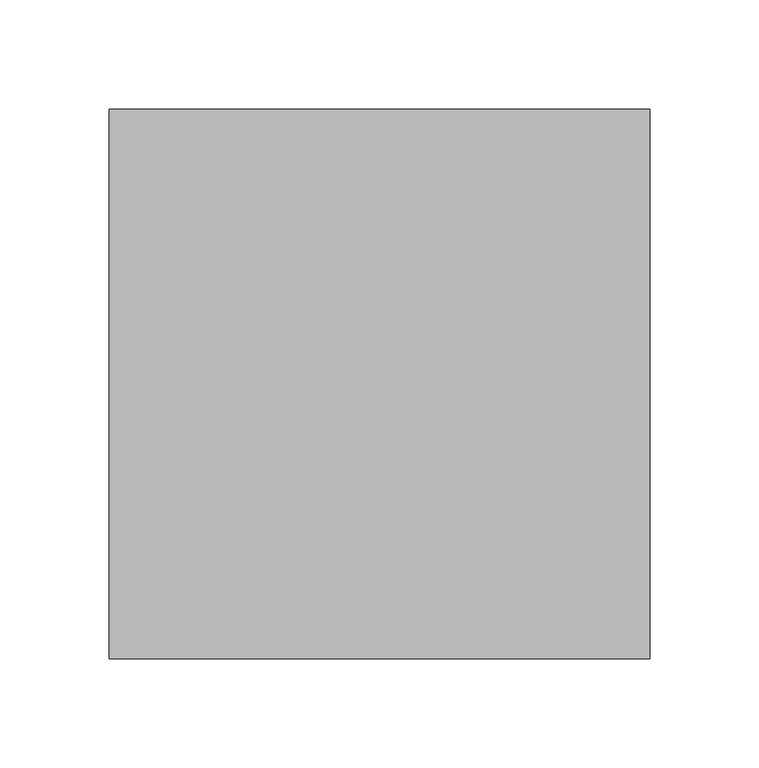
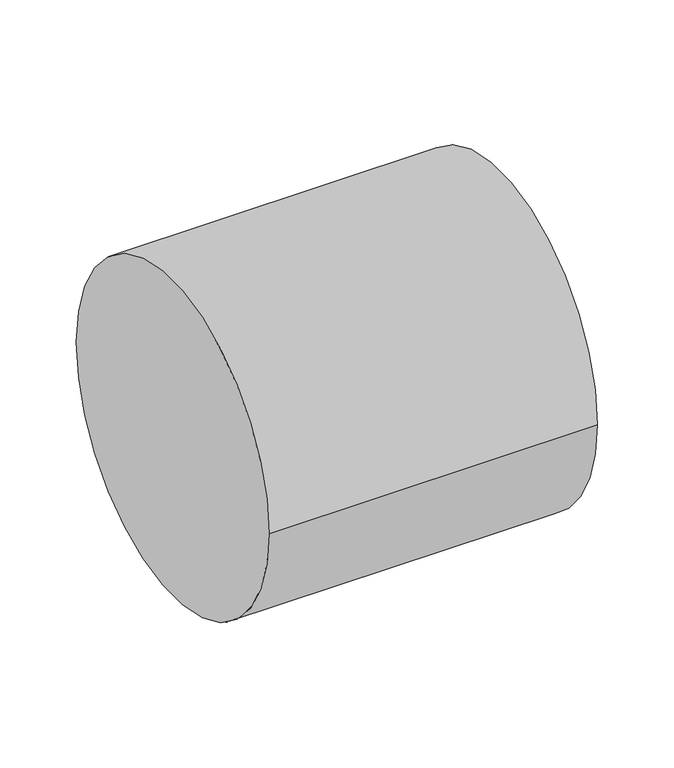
"""IFC4 building model written with IfcOpenShell, lengths in millimetres: pipe fitting geometry, 01051005 : Uniao Simples."""

import ifcopenshell
import ifcopenshell.guid

model = None  # the IFC model being written
_history = None  # IfcOwnerHistory: only IFC2X3 demands one
_inside = {}  # id of a spatial element -> (the spatial element, [elements in it])
_under = {}  # id of a project, library or spatial element -> (it, [spatial elements below it])
_declared = {}  # id of a project -> (the project, [libraries it declares])
_typed = {}  # id of a type object -> (the type object, [elements of that type])
_made_of = {}  # id of a material, layer set ... -> (it, [elements and type objects made of it])


def new_model(schema):
    """Start an empty IFC model of exactly this schema.

    Asked for "IFC4X3", IfcOpenShell would pick the latest addendum, in which some entities
    have other attributes; the version numbers below select the first issue.
    IFC2X3 requires an IfcOwnerHistory on every rooted entity: one is made here for all.
    """
    global model, _history
    if schema == "IFC4X3":
        model = ifcopenshell.file(schema_version=(4, 3, 0, 0))
    else:
        model = ifcopenshell.file(schema=schema)
    _inside.clear()
    _under.clear()
    _declared.clear()
    _typed.clear()
    _made_of.clear()
    _history = None
    if model.schema == "IFC2X3":
        org = make("IfcOrganization", Name="unknown")
        user = make(
            "IfcPersonAndOrganization",
            ThePerson=make("IfcPerson", FamilyName="unknown"),
            TheOrganization=org,
        )
        app = make(
            "IfcApplication",
            ApplicationDeveloper=org,
            Version="unknown",
            ApplicationFullName="unknown",
            ApplicationIdentifier="unknown",
        )
        _history = make(
            "IfcOwnerHistory",
            OwningUser=user,
            OwningApplication=app,
            ChangeAction="ADDED",
            CreationDate=0,
        )
    return model


def make(cls, **values):
    """One entity of the class cls with the attributes given. An attribute that is None is left unset."""
    return model.create_entity(
        cls, **{name: value for name, value in values.items() if value is not None}
    )


def rooted(cls, **values):
    """An entity with a GlobalId (a new one), such as an element, a storey or a relation."""
    return make(cls, GlobalId=ifcopenshell.guid.new(), OwnerHistory=_history, **values)


def si_unit(unit_type, name, prefix=None):
    """IfcSIUnit, for example si_unit("LENGTHUNIT", "METRE", prefix="MILLI")."""
    return make("IfcSIUnit", UnitType=unit_type, Prefix=prefix, Name=name)


def assignment(units):
    """IfcUnitAssignment: the units of a project."""
    return None if units is None else make("IfcUnitAssignment", Units=units)


def point(xyz):
    """IfcCartesianPoint."""
    return None if xyz is None else make("IfcCartesianPoint", Coordinates=xyz)


def direction(xyz):
    """IfcDirection."""
    return None if xyz is None else make("IfcDirection", DirectionRatios=xyz)


def frame(location, z_axis=None, x_axis=None):
    """IfcAxis2Placement3D, a coordinate frame: its origin and axes. An axis left out is left unset."""
    return make(
        "IfcAxis2Placement3D",
        Location=point(location),
        Axis=direction(z_axis),
        RefDirection=direction(x_axis),
    )


def frame_2d(location, x_axis=None):
    """IfcAxis2Placement2D, a coordinate frame in the plane: its origin and x axis."""
    return make(
        "IfcAxis2Placement2D", Location=point(location), RefDirection=direction(x_axis)
    )


def origin():
    """The frame at (0, 0, 0) with its axes left unset."""
    return frame((0.0, 0.0, 0.0))


def origin_2d():
    """The frame at (0, 0) in the plane with its x axis left unset."""
    return frame_2d((0.0, 0.0))


def place(relative_to, where):
    """IfcLocalPlacement: puts the frame where relative to a parent placement (None: the world)."""
    return make(
        "IfcLocalPlacement", PlacementRelTo=relative_to, RelativePlacement=where
    )


def context(
    kind, dimensions, precision=None, world=None, true_north=None, identifier=None
):
    """IfcGeometricRepresentationContext, for example the 3D "Model" context."""
    return make(
        "IfcGeometricRepresentationContext",
        ContextIdentifier=identifier,
        ContextType=kind,
        CoordinateSpaceDimension=dimensions,
        Precision=precision,
        WorldCoordinateSystem=world,
        TrueNorth=true_north,
    )


def project(units=None, contexts=None):
    """IfcProject with its units and contexts."""
    return rooted(
        "IfcProject",
        Name="project",
        RepresentationContexts=contexts,
        UnitsInContext=assignment(units),
    )


def spatial(cls, under=None, at=None, **own):
    """A site, building, storey or space (cls), placed at a placement, below another one or the project."""
    s = rooted(cls, ObjectPlacement=at, **own)
    if under is not None:
        _under.setdefault(under.id(), (under, []))[1].append(s)
    return s


def circle_curve(where, radius):
    """IfcCircle in the frame where."""
    return make("IfcCircle", Position=where, Radius=radius)


def trimmed(basis, trim1, trim2, sense, master):
    """IfcTrimmedCurve: the piece of a basis curve between two trims."""
    return make(
        "IfcTrimmedCurve",
        BasisCurve=basis,
        Trim1=trim1,
        Trim2=trim2,
        SenseAgreement=sense,
        MasterRepresentation=master,
    )


def segment(curve, same_sense, transition):
    """IfcCompositeCurveSegment."""
    return make(
        "IfcCompositeCurveSegment",
        Transition=transition,
        SameSense=same_sense,
        ParentCurve=curve,
    )


def composite_curve(segments, self_intersect=None):
    """IfcCompositeCurve: segments joined end to end."""
    return make("IfcCompositeCurve", Segments=segments, SelfIntersect=self_intersect)


def outline(outer, holes=None, kind="AREA"):
    """IfcArbitraryClosedProfileDef: a profile drawn as a closed curve; with holes, ...WithVoids."""
    if holes is None:
        return make("IfcArbitraryClosedProfileDef", ProfileType=kind, OuterCurve=outer)
    return make(
        "IfcArbitraryProfileDefWithVoids",
        ProfileType=kind,
        OuterCurve=outer,
        InnerCurves=holes,
    )


def extrude(swept, where, along, depth):
    """IfcExtrudedAreaSolid: the profile swept, set in the frame where, extruded along a direction by depth."""
    return make(
        "IfcExtrudedAreaSolid",
        SweptArea=swept,
        Position=where,
        ExtrudedDirection=direction(along),
        Depth=depth,
    )


def shape(context_of_items, identifier, shape_type, items):
    """IfcShapeRepresentation: the items that make up one representation, for example the "Body"."""
    return make(
        "IfcShapeRepresentation",
        ContextOfItems=context_of_items,
        RepresentationIdentifier=identifier,
        RepresentationType=shape_type,
        Items=items,
    )


def source(mapping_origin, context_of_items, identifier, shape_type, items):
    """IfcRepresentationMap: a shape defined once, which mapped items show again and again."""
    return make(
        "IfcRepresentationMap",
        MappingOrigin=mapping_origin,
        MappedRepresentation=shape(context_of_items, identifier, shape_type, items),
    )


def transform(
    local_origin,
    x_axis=None,
    y_axis=None,
    z_axis=None,
    scale=None,
    scale2=None,
    scale3=None,
    uniform=True,
):
    """IfcCartesianTransformationOperator3D, or its non-uniform kind. x_axis, y_axis, z_axis: its Axis1, 2, 3."""
    if uniform:
        return make(
            "IfcCartesianTransformationOperator3D",
            Axis1=direction(x_axis),
            Axis2=direction(y_axis),
            LocalOrigin=point(local_origin),
            Scale=scale,
            Axis3=direction(z_axis),
        )
    return make(
        "IfcCartesianTransformationOperator3DnonUniform",
        Axis1=direction(x_axis),
        Axis2=direction(y_axis),
        LocalOrigin=point(local_origin),
        Scale=scale,
        Axis3=direction(z_axis),
        Scale2=scale2,
        Scale3=scale3,
    )


def mapped(mapping_source, mapping_target):
    """IfcMappedItem: shows the shape of a source again, moved by a transform."""
    return make(
        "IfcMappedItem", MappingSource=mapping_source, MappingTarget=mapping_target
    )


def made_of(thing, what):
    """Note that an element or type object is made of a material, layer set ...; save() writes the relation."""
    if what is not None:
        _made_of.setdefault(what.id(), (what, []))[1].append(thing)
    return thing


def element(
    cls,
    number,
    at=None,
    inside=None,
    cuts=None,
    type_object=None,
    material=None,
    context=None,
    identifier="Body",
    shape_type=None,
    held_by="IfcProductDefinitionShape",
    body=None,
    shapes=None,
    **own,
):
    """One element of the class cls, such as IfcWall. Its Tag is "e" and its number.

    at: its placement. inside: the storey or other place that contains it. cuts: it is an
    opening in that element (IfcRelVoidsElement). A single representation is given by context,
    identifier, shape_type and body (its items); several are given by shapes. held_by: the class
    of the entity that holds the representations. save() writes the other relations.
    """
    e = rooted(cls, Tag="e%d" % number, ObjectPlacement=at, **own)
    if body is not None:
        shapes = [shape(context, identifier, shape_type, body)]
    if shapes is not None:
        e.Representation = make(held_by, Representations=shapes)
    if inside is not None:
        _inside.setdefault(inside.id(), (inside, []))[1].append(e)
    if cuts is not None:
        rooted(
            "IfcRelVoidsElement", RelatingBuildingElement=cuts, RelatedOpeningElement=e
        )
    if type_object is not None:
        _typed.setdefault(type_object.id(), (type_object, []))[1].append(e)
    return made_of(e, material)


def aggregate(whole, parts):
    """IfcRelAggregates: a whole, such as a stair, and the parts it consists of."""
    return rooted("IfcRelAggregates", RelatingObject=whole, RelatedObjects=parts)


def save(model, path):
    """Write the relations noted so far, then the file.

    IfcRelAggregates (storeys below a building ...), IfcRelContainedInSpatialStructure (elements
    in a storey), IfcRelDefinesByType, IfcRelAssociatesMaterial and IfcRelDeclares: one each for
    every whole, place, type object, material and project.
    """
    for whole, parts in _under.values():
        aggregate(whole, parts)
    for where, things in _inside.values():
        rooted(
            "IfcRelContainedInSpatialStructure",
            RelatedElements=things,
            RelatingStructure=where,
        )
    for kind, things in _typed.values():
        rooted("IfcRelDefinesByType", RelatedObjects=things, RelatingType=kind)
    for what, things in _made_of.values():
        rooted("IfcRelAssociatesMaterial", RelatedObjects=things, RelatingMaterial=what)
    for by, libraries in _declared.values():
        rooted("IfcRelDeclares", RelatingContext=by, RelatedDefinitions=libraries)
    model.write(path)


def pipe_fitting_12f06f3f(model_context):
    return source(origin(), model_context, "Body", "SweptSolid", [
        extrude(outline(composite_curve([segment(trimmed(circle_curve(origin_2d(), 126.0), [point((-126.0, 0.0))], [point((126.0, 0.0))], False, "CARTESIAN"), True, "CONTINUOUS"), segment(trimmed(circle_curve(origin_2d(), 126.0), [point((126.0, 0.0))], [point((-126.0, 0.0))], False, "CARTESIAN"), True, "CONTINUOUS")], self_intersect=False)), frame((-124.0, 0.0, 0.0), z_axis=(1.0, 0.0, 0.0), x_axis=(0.0, 1.0, 0.0)), (0.0, 0.0, 1.0), 248.0),
    ])


if __name__ == "__main__":
    model = new_model("IFC4")
    model_context = context("Model", 3, world=origin())
    ifc_project = project(units=[si_unit("LENGTHUNIT", "METRE", prefix="MILLI")], contexts=[model_context])
    site = spatial("IfcSite", under=ifc_project)
    building = spatial("IfcBuilding", under=site)
    placement = place(None, origin())
    pipe_fitting_shape = pipe_fitting_12f06f3f(model_context)
    element("IfcPipeFitting", 1, ObjectType="01051005 : Uniao Simples", at=placement, inside=building, context=model_context, shape_type="MappedRepresentation", body=[
        mapped(pipe_fitting_shape, transform((0.0, 0.0, 0.0), x_axis=(1.0, 0.0, 0.0), y_axis=(0.0, 1.0, 0.0), z_axis=(0.0, 0.0, 1.0))),
    ])
    save(model, "model.ifc")
